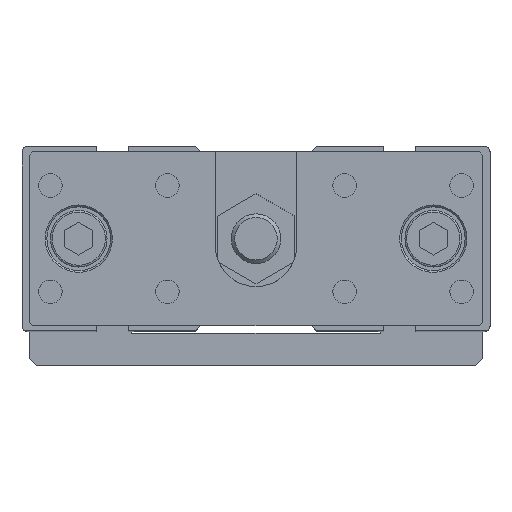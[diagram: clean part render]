
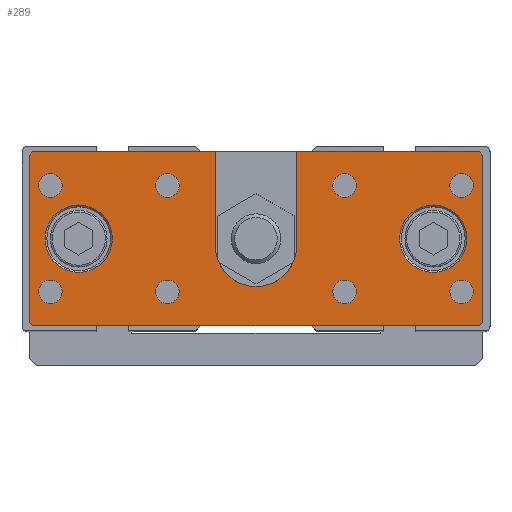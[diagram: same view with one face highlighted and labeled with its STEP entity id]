
A CAD part, top view. The second image highlights one B-rep face of the part: STEP entity #289.
In plain terms, the highlighted planar face has unit normal (0, 0, 1).
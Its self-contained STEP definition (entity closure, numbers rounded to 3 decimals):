
#59=CARTESIAN_POINT('',(-63.,-24.5,107.0));
#60=VERTEX_POINT('',#59);
#67=CARTESIAN_POINT('',(-64.0,-23.5,107.0));
#68=VERTEX_POINT('',#67);
#69=CARTESIAN_POINT('',(-63.,-24.5,107.0));
#70=DIRECTION('',(-0.707,0.707,0.0));
#71=VECTOR('',#70,1.414);
#72=LINE('',#69,#71);
#73=EDGE_CURVE('',#60,#68,#72,.T.);
#84=CARTESIAN_POINT('',(0.0,-24.5,107.0));
#85=DIRECTION('',(0.0,0.0,1.0));
#86=DIRECTION('',(1.0,0.0,0.0));
#87=AXIS2_PLACEMENT_3D('',#84,#85,#86);
#88=PLANE('',#87);
#89=ORIENTED_EDGE('',*,*,#73,.F.);
#90=CARTESIAN_POINT('',(63.,-24.5,107.0));
#91=VERTEX_POINT('',#90);
#92=CARTESIAN_POINT('',(-63.,-24.5,107.0));
#93=DIRECTION('',(1.0,0.0,0.0));
#94=VECTOR('',#93,126.);
#95=LINE('',#92,#94);
#96=EDGE_CURVE('',#60,#91,#95,.T.);
#97=ORIENTED_EDGE('',*,*,#96,.T.);
#98=CARTESIAN_POINT('',(64.0,-23.5,107.0));
#99=VERTEX_POINT('',#98);
#100=CARTESIAN_POINT('',(64.0,-23.5,107.0));
#101=DIRECTION('',(-0.707,-0.707,0.0));
#102=VECTOR('',#101,1.414);
#103=LINE('',#100,#102);
#104=EDGE_CURVE('',#99,#91,#103,.T.);
#105=ORIENTED_EDGE('',*,*,#104,.F.);
#106=CARTESIAN_POINT('',(64.0,23.5,107.0));
#107=VERTEX_POINT('',#106);
#108=CARTESIAN_POINT('',(64.0,-23.5,107.0));
#109=DIRECTION('',(0.0,1.0,0.0));
#110=VECTOR('',#109,47.);
#111=LINE('',#108,#110);
#112=EDGE_CURVE('',#99,#107,#111,.T.);
#113=ORIENTED_EDGE('',*,*,#112,.T.);
#114=CARTESIAN_POINT('',(63.,24.5,107.0));
#115=VERTEX_POINT('',#114);
#116=CARTESIAN_POINT('',(63.,24.5,107.0));
#117=DIRECTION('',(0.707,-0.707,0.0));
#118=VECTOR('',#117,1.414);
#119=LINE('',#116,#118);
#120=EDGE_CURVE('',#115,#107,#119,.T.);
#121=ORIENTED_EDGE('',*,*,#120,.F.);
#122=CARTESIAN_POINT('',(11.5,24.5,107.0));
#123=VERTEX_POINT('',#122);
#124=CARTESIAN_POINT('',(63.,24.5,107.0));
#125=DIRECTION('',(-1.0,0.0,0.0));
#126=VECTOR('',#125,51.5);
#127=LINE('',#124,#126);
#128=EDGE_CURVE('',#115,#123,#127,.T.);
#129=ORIENTED_EDGE('',*,*,#128,.T.);
#130=CARTESIAN_POINT('',(11.5,-2.,107.0));
#131=VERTEX_POINT('',#130);
#132=CARTESIAN_POINT('',(11.5,24.5,107.0));
#133=DIRECTION('',(0.0,-1.0,0.0));
#134=VECTOR('',#133,26.5);
#135=LINE('',#132,#134);
#136=EDGE_CURVE('',#123,#131,#135,.T.);
#137=ORIENTED_EDGE('',*,*,#136,.T.);
#138=CARTESIAN_POINT('',(-11.5,-2.,107.0));
#139=VERTEX_POINT('',#138);
#140=CARTESIAN_POINT('',(0.0,-2.,107.0));
#141=DIRECTION('',(0.0,0.0,-1.0));
#142=DIRECTION('',(1.0,0.0,0.0));
#143=AXIS2_PLACEMENT_3D('',#140,#141,#142);
#144=CIRCLE('',#143,11.5);
#145=EDGE_CURVE('',#131,#139,#144,.T.);
#146=ORIENTED_EDGE('',*,*,#145,.T.);
#147=CARTESIAN_POINT('',(-11.5,24.5,107.0));
#148=VERTEX_POINT('',#147);
#149=CARTESIAN_POINT('',(-11.5,-2.,107.0));
#150=DIRECTION('',(0.0,1.0,0.0));
#151=VECTOR('',#150,26.5);
#152=LINE('',#149,#151);
#153=EDGE_CURVE('',#139,#148,#152,.T.);
#154=ORIENTED_EDGE('',*,*,#153,.T.);
#155=CARTESIAN_POINT('',(-63.,24.5,107.0));
#156=VERTEX_POINT('',#155);
#157=CARTESIAN_POINT('',(-11.5,24.5,107.0));
#158=DIRECTION('',(-1.0,0.0,0.0));
#159=VECTOR('',#158,51.5);
#160=LINE('',#157,#159);
#161=EDGE_CURVE('',#148,#156,#160,.T.);
#162=ORIENTED_EDGE('',*,*,#161,.T.);
#163=CARTESIAN_POINT('',(-64.0,23.5,107.0));
#164=VERTEX_POINT('',#163);
#165=CARTESIAN_POINT('',(-64.0,23.5,107.0));
#166=DIRECTION('',(0.707,0.707,0.0));
#167=VECTOR('',#166,1.414);
#168=LINE('',#165,#167);
#169=EDGE_CURVE('',#164,#156,#168,.T.);
#170=ORIENTED_EDGE('',*,*,#169,.F.);
#171=CARTESIAN_POINT('',(-64.0,23.5,107.0));
#172=DIRECTION('',(0.0,-1.0,0.0));
#173=VECTOR('',#172,47.);
#174=LINE('',#171,#173);
#175=EDGE_CURVE('',#164,#68,#174,.T.);
#176=ORIENTED_EDGE('',*,*,#175,.T.);
#177=EDGE_LOOP('',(#89,#97,#105,#113,#121,#129,#137,#146,#154,#162,#170,#176));
#178=FACE_OUTER_BOUND('',#177,.T.);
#179=CARTESIAN_POINT('',(59.5,0.,107.0));
#180=VERTEX_POINT('',#179);
#181=CARTESIAN_POINT('',(50.0,0.0,107.0));
#182=DIRECTION('',(0.0,0.0,1.0));
#183=DIRECTION('',(-1.0,0.0,0.0));
#184=AXIS2_PLACEMENT_3D('',#181,#182,#183);
#185=CIRCLE('',#184,9.5);
#186=EDGE_CURVE('',#180,#180,#185,.T.);
#187=ORIENTED_EDGE('',*,*,#186,.F.);
#188=EDGE_LOOP('',(#187));
#189=FACE_BOUND('',#188,.T.);
#190=CARTESIAN_POINT('',(28.323,-15.0,107.0));
#191=VERTEX_POINT('',#190);
#192=CARTESIAN_POINT('',(25.0,-15.0,107.));
#193=DIRECTION('',(0.0,0.0,-1.0));
#194=DIRECTION('',(1.0,0.0,0.0));
#195=AXIS2_PLACEMENT_3D('',#192,#193,#194);
#196=CIRCLE('',#195,3.324);
#197=EDGE_CURVE('',#191,#191,#196,.T.);
#198=ORIENTED_EDGE('',*,*,#197,.T.);
#199=EDGE_LOOP('',(#198));
#200=FACE_BOUND('',#199,.T.);
#201=CARTESIAN_POINT('',(-21.677,-15.0,107.0));
#202=VERTEX_POINT('',#201);
#203=CARTESIAN_POINT('',(-25.0,-15.0,107.));
#204=DIRECTION('',(0.0,0.0,-1.0));
#205=DIRECTION('',(1.0,0.0,0.0));
#206=AXIS2_PLACEMENT_3D('',#203,#204,#205);
#207=CIRCLE('',#206,3.324);
#208=EDGE_CURVE('',#202,#202,#207,.T.);
#209=ORIENTED_EDGE('',*,*,#208,.T.);
#210=EDGE_LOOP('',(#209));
#211=FACE_BOUND('',#210,.T.);
#212=CARTESIAN_POINT('',(28.323,15.0,107.0));
#213=VERTEX_POINT('',#212);
#214=CARTESIAN_POINT('',(25.0,15.0,107.));
#215=DIRECTION('',(0.0,0.0,-1.0));
#216=DIRECTION('',(1.0,0.0,0.0));
#217=AXIS2_PLACEMENT_3D('',#214,#215,#216);
#218=CIRCLE('',#217,3.324);
#219=EDGE_CURVE('',#213,#213,#218,.T.);
#220=ORIENTED_EDGE('',*,*,#219,.T.);
#221=EDGE_LOOP('',(#220));
#222=FACE_BOUND('',#221,.T.);
#223=CARTESIAN_POINT('',(61.324,-15.0,107.0));
#224=VERTEX_POINT('',#223);
#225=CARTESIAN_POINT('',(58.,-15.0,107.));
#226=DIRECTION('',(0.0,0.0,-1.0));
#227=DIRECTION('',(1.0,0.0,0.0));
#228=AXIS2_PLACEMENT_3D('',#225,#226,#227);
#229=CIRCLE('',#228,3.324);
#230=EDGE_CURVE('',#224,#224,#229,.T.);
#231=ORIENTED_EDGE('',*,*,#230,.T.);
#232=EDGE_LOOP('',(#231));
#233=FACE_BOUND('',#232,.T.);
#234=CARTESIAN_POINT('',(-54.677,-15.0,107.0));
#235=VERTEX_POINT('',#234);
#236=CARTESIAN_POINT('',(-58.,-15.0,107.));
#237=DIRECTION('',(0.0,0.0,-1.0));
#238=DIRECTION('',(1.0,0.0,0.0));
#239=AXIS2_PLACEMENT_3D('',#236,#237,#238);
#240=CIRCLE('',#239,3.324);
#241=EDGE_CURVE('',#235,#235,#240,.T.);
#242=ORIENTED_EDGE('',*,*,#241,.T.);
#243=EDGE_LOOP('',(#242));
#244=FACE_BOUND('',#243,.T.);
#245=CARTESIAN_POINT('',(61.324,15.0,107.0));
#246=VERTEX_POINT('',#245);
#247=CARTESIAN_POINT('',(58.,15.0,107.));
#248=DIRECTION('',(0.0,0.0,-1.0));
#249=DIRECTION('',(1.0,0.0,0.0));
#250=AXIS2_PLACEMENT_3D('',#247,#248,#249);
#251=CIRCLE('',#250,3.324);
#252=EDGE_CURVE('',#246,#246,#251,.T.);
#253=ORIENTED_EDGE('',*,*,#252,.T.);
#254=EDGE_LOOP('',(#253));
#255=FACE_BOUND('',#254,.T.);
#256=CARTESIAN_POINT('',(-21.677,15.0,107.0));
#257=VERTEX_POINT('',#256);
#258=CARTESIAN_POINT('',(-25.0,15.0,107.));
#259=DIRECTION('',(0.0,0.0,-1.0));
#260=DIRECTION('',(1.0,0.0,0.0));
#261=AXIS2_PLACEMENT_3D('',#258,#259,#260);
#262=CIRCLE('',#261,3.324);
#263=EDGE_CURVE('',#257,#257,#262,.T.);
#264=ORIENTED_EDGE('',*,*,#263,.T.);
#265=EDGE_LOOP('',(#264));
#266=FACE_BOUND('',#265,.T.);
#267=CARTESIAN_POINT('',(-54.677,15.0,107.0));
#268=VERTEX_POINT('',#267);
#269=CARTESIAN_POINT('',(-58.,15.0,107.));
#270=DIRECTION('',(0.0,0.0,-1.0));
#271=DIRECTION('',(1.0,0.0,0.0));
#272=AXIS2_PLACEMENT_3D('',#269,#270,#271);
#273=CIRCLE('',#272,3.324);
#274=EDGE_CURVE('',#268,#268,#273,.T.);
#275=ORIENTED_EDGE('',*,*,#274,.T.);
#276=EDGE_LOOP('',(#275));
#277=FACE_BOUND('',#276,.T.);
#278=CARTESIAN_POINT('',(-40.5,0.,107.0));
#279=VERTEX_POINT('',#278);
#280=CARTESIAN_POINT('',(-50.0,0.0,107.0));
#281=DIRECTION('',(0.0,0.0,1.0));
#282=DIRECTION('',(-1.0,0.0,0.0));
#283=AXIS2_PLACEMENT_3D('',#280,#281,#282);
#284=CIRCLE('',#283,9.5);
#285=EDGE_CURVE('',#279,#279,#284,.T.);
#286=ORIENTED_EDGE('',*,*,#285,.F.);
#287=EDGE_LOOP('',(#286));
#288=FACE_BOUND('',#287,.T.);
#289=ADVANCED_FACE('',(#178,#189,#200,#211,#222,#233,#244,#255,#266,#277,#288),#88,.T.);
